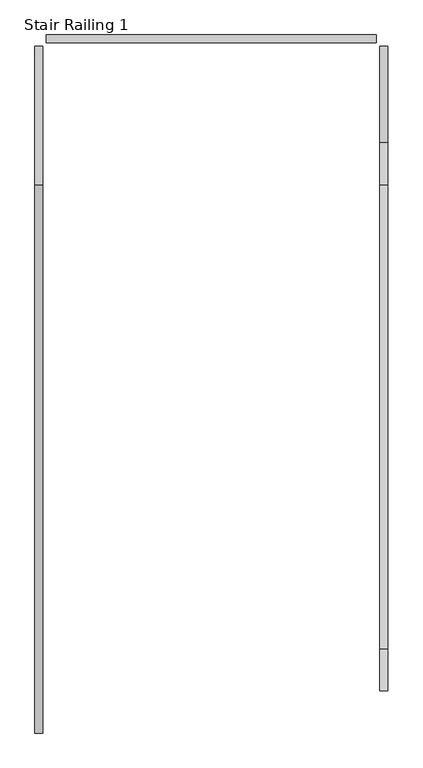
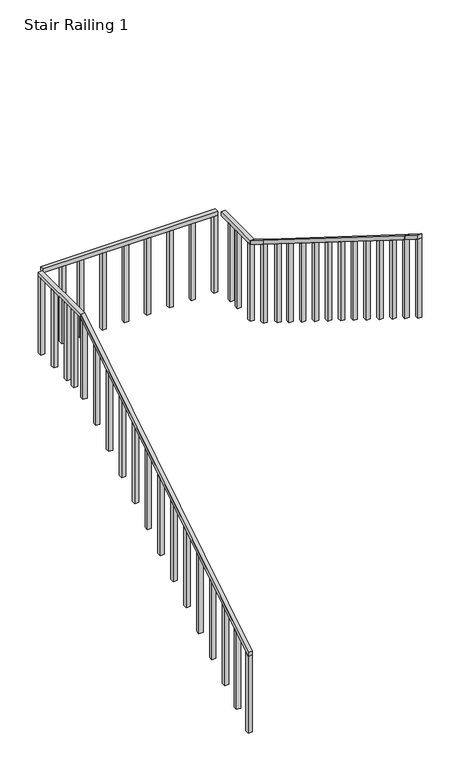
"""IFC4 building model written with IfcOpenShell, lengths in millimetres: railing geometry, Stair Railing 1."""

from ifc_helpers import new_model, si_unit, frame, origin, place, context, project, spatial, polyline, outline, extrude, source, transform, mapped, element, save


def stair_railing_1_c17154a6(model_context):
    return source(origin(), model_context, "Body", "SweptSolid", [
        extrude(outline(polyline([(42823.1018942, 9002.8888889), (42823.1018942, 8952.0888889), (39190.9018942, 6677.3777778), (39190.9018942, 6728.1777778), (42823.1018942, 9002.8888889)])), frame((-115070.173517, 0.0, 0.0), z_axis=(1.0, 0.0, 0.0), x_axis=(0.0, 1.0, 0.0)), (0.0, 0.0, 1.0), 50.8),
        extrude(outline(polyline([(39241.7018942, 6709.1919192), (39241.7018942, 5661.3777778), (39190.9018942, 5661.3777778), (39190.9018942, 6677.3777778), (39241.7018942, 6709.1919192)])), frame((-115070.173517, 0.0, 0.0), z_axis=(1.0, 0.0, 0.0), x_axis=(0.0, 1.0, 0.0)), (0.0, 0.0, 1.0), 50.8),
        extrude(outline(polyline([(39495.7018942, 6868.2626263), (39495.7018942, 5820.4484848), (39444.9018942, 5820.4484848), (39444.9018942, 6836.4484848), (39495.7018942, 6868.2626263)])), frame((-115070.173517, 0.0, 0.0), z_axis=(1.0, 0.0, 0.0), x_axis=(0.0, 1.0, 0.0)), (0.0, 0.0, 1.0), 50.8),
        extrude(outline(polyline([(39749.7018942, 7027.3333333), (39749.7018942, 5979.5191919), (39698.9018942, 5979.5191919), (39698.9018942, 6995.5191919), (39749.7018942, 7027.3333333)])), frame((-115070.173517, 0.0, 0.0), z_axis=(1.0, 0.0, 0.0), x_axis=(0.0, 1.0, 0.0)), (0.0, 0.0, 1.0), 50.8),
        extrude(outline(polyline([(40029.1018942, 7202.3111111), (40029.1018942, 6154.4969697), (39978.3018942, 6154.4969697), (39978.3018942, 7170.4969697), (40029.1018942, 7202.3111111)])), frame((-115070.173517, 0.0, 0.0), z_axis=(1.0, 0.0, 0.0), x_axis=(0.0, 1.0, 0.0)), (0.0, 0.0, 1.0), 50.8),
        extrude(outline(polyline([(40308.5018942, 7377.2888889), (40308.5018942, 6329.4747475), (40257.7018942, 6329.4747475), (40257.7018942, 7345.4747475), (40308.5018942, 7377.2888889)])), frame((-115070.173517, 0.0, 0.0), z_axis=(1.0, 0.0, 0.0), x_axis=(0.0, 1.0, 0.0)), (0.0, 0.0, 1.0), 50.8),
        extrude(outline(polyline([(40587.9018942, 7552.2666667), (40587.9018942, 6504.4525253), (40537.1018942, 6504.4525253), (40537.1018942, 7520.4525253), (40587.9018942, 7552.2666667)])), frame((-115070.173517, 0.0, 0.0), z_axis=(1.0, 0.0, 0.0), x_axis=(0.0, 1.0, 0.0)), (0.0, 0.0, 1.0), 50.8),
        extrude(outline(polyline([(40867.3018942, 7727.2444444), (40867.3018942, 6679.430303), (40816.5018942, 6679.430303), (40816.5018942, 7695.430303), (40867.3018942, 7727.2444444)])), frame((-115070.173517, 0.0, 0.0), z_axis=(1.0, 0.0, 0.0), x_axis=(0.0, 1.0, 0.0)), (0.0, 0.0, 1.0), 50.8),
        extrude(outline(polyline([(41146.7018942, 7902.2222222), (41146.7018942, 6854.4080808), (41095.9018942, 6854.4080808), (41095.9018942, 7870.4080808), (41146.7018942, 7902.2222222)])), frame((-115070.173517, 0.0, 0.0), z_axis=(1.0, 0.0, 0.0), x_axis=(0.0, 1.0, 0.0)), (0.0, 0.0, 1.0), 50.8),
        extrude(outline(polyline([(41426.1018942, 8077.2), (41426.1018942, 7029.3858586), (41375.3018942, 7029.3858586), (41375.3018942, 8045.3858586), (41426.1018942, 8077.2)])), frame((-115070.173517, 0.0, 0.0), z_axis=(1.0, 0.0, 0.0), x_axis=(0.0, 1.0, 0.0)), (0.0, 0.0, 1.0), 50.8),
        extrude(outline(polyline([(41705.5018942, 8252.1777778), (41705.5018942, 7204.3636364), (41654.7018942, 7204.3636364), (41654.7018942, 8220.3636364), (41705.5018942, 8252.1777778)])), frame((-115070.173517, 0.0, 0.0), z_axis=(1.0, 0.0, 0.0), x_axis=(0.0, 1.0, 0.0)), (0.0, 0.0, 1.0), 50.8),
        extrude(outline(polyline([(41984.9018942, 8427.1555556), (41984.9018942, 7379.3414141), (41934.1018942, 7379.3414141), (41934.1018942, 8395.3414141), (41984.9018942, 8427.1555556)])), frame((-115070.173517, 0.0, 0.0), z_axis=(1.0, 0.0, 0.0), x_axis=(0.0, 1.0, 0.0)), (0.0, 0.0, 1.0), 50.8),
        extrude(outline(polyline([(42264.3018942, 8602.1333333), (42264.3018942, 7554.3191919), (42213.5018942, 7554.3191919), (42213.5018942, 8570.3191919), (42264.3018942, 8602.1333333)])), frame((-115070.173517, 0.0, 0.0), z_axis=(1.0, 0.0, 0.0), x_axis=(0.0, 1.0, 0.0)), (0.0, 0.0, 1.0), 50.8),
        extrude(outline(polyline([(42543.7018942, 8777.1111111), (42543.7018942, 7729.2969697), (42492.9018942, 7729.2969697), (42492.9018942, 8745.2969697), (42543.7018942, 8777.1111111)])), frame((-115070.173517, 0.0, 0.0), z_axis=(1.0, 0.0, 0.0), x_axis=(0.0, 1.0, 0.0)), (0.0, 0.0, 1.0), 50.8),
        extrude(outline(polyline([(42823.1018942, 8952.0888889), (42823.1018942, 7904.2747475), (42772.3018942, 7904.2747475), (42772.3018942, 8920.2747475), (42823.1018942, 8952.0888889)])), frame((-115070.173517, 0.0, 0.0), z_axis=(1.0, 0.0, 0.0), x_axis=(0.0, 1.0, 0.0)), (0.0, 0.0, 1.0), 50.8),
        extrude(outline(polyline([(-115070.173517, 43737.5018942), (-115019.373517, 43737.5018942), (-115019.373517, 42823.1018942), (-115070.173517, 42823.1018942), (-115070.173517, 43737.5018942)])), frame((0.0, 0.0, 8952.0888889), z_axis=(0.0, 0.0, 1.0), x_axis=(1.0, 0.0, 0.0)), (0.0, 0.0, 1.0), 50.8),
        extrude(outline(polyline([(-115019.373517, 42975.5018942), (-115070.173517, 42975.5018942), (-115070.173517, 43026.3018942), (-115019.373517, 43026.3018942), (-115019.373517, 42975.5018942)])), frame((0.0, 0.0, 7936.0888889), z_axis=(0.0, 0.0, 1.0), x_axis=(1.0, 0.0, 0.0)), (0.0, 0.0, 1.0), 1016.0),
        extrude(outline(polyline([(-115019.373517, 43127.9018942), (-115070.173517, 43127.9018942), (-115070.173517, 43178.7018942), (-115019.373517, 43178.7018942), (-115019.373517, 43127.9018942)])), frame((0.0, 0.0, 7936.0888889), z_axis=(0.0, 0.0, 1.0), x_axis=(1.0, 0.0, 0.0)), (0.0, 0.0, 1.0), 1016.0),
        extrude(outline(polyline([(-115019.373517, 43407.3018942), (-115070.173517, 43407.3018942), (-115070.173517, 43458.1018942), (-115019.373517, 43458.1018942), (-115019.373517, 43407.3018942)])), frame((0.0, 0.0, 7936.0888889), z_axis=(0.0, 0.0, 1.0), x_axis=(1.0, 0.0, 0.0)), (0.0, 0.0, 1.0), 1016.0),
        extrude(outline(polyline([(-115019.373517, 43686.7018942), (-115070.173517, 43686.7018942), (-115070.173517, 43737.5018942), (-115019.373517, 43737.5018942), (-115019.373517, 43686.7018942)])), frame((0.0, 0.0, 7936.0888889), z_axis=(0.0, 0.0, 1.0), x_axis=(1.0, 0.0, 0.0)), (0.0, 0.0, 1.0), 1016.0),
        extrude(outline(polyline([(-112810.6492148, 43813.7018942), (-112810.6492148, 43762.9018942), (-114993.973517, 43762.9018942), (-114993.973517, 43813.7018942), (-112810.6492148, 43813.7018942)])), frame((0.0, 0.0, 8952.0888889), z_axis=(0.0, 0.0, 1.0), x_axis=(1.0, 0.0, 0.0)), (0.0, 0.0, 1.0), 50.8),
        extrude(outline(polyline([(-114765.9113659, 43762.9018942), (-114765.9113659, 43813.7018942), (-114715.1113659, 43813.7018942), (-114715.1113659, 43762.9018942), (-114765.9113659, 43762.9018942)])), frame((0.0, 0.0, 7936.0888889), z_axis=(0.0, 0.0, 1.0), x_axis=(1.0, 0.0, 0.0)), (0.0, 0.0, 1.0), 1016.0),
        extrude(outline(polyline([(-114537.8492148, 43762.9018942), (-114537.8492148, 43813.7018942), (-114487.0492148, 43813.7018942), (-114487.0492148, 43762.9018942), (-114537.8492148, 43762.9018942)])), frame((0.0, 0.0, 7936.0888889), z_axis=(0.0, 0.0, 1.0), x_axis=(1.0, 0.0, 0.0)), (0.0, 0.0, 1.0), 1016.0),
        extrude(outline(polyline([(-114258.4492148, 43762.9018942), (-114258.4492148, 43813.7018942), (-114207.6492148, 43813.7018942), (-114207.6492148, 43762.9018942), (-114258.4492148, 43762.9018942)])), frame((0.0, 0.0, 7936.0888889), z_axis=(0.0, 0.0, 1.0), x_axis=(1.0, 0.0, 0.0)), (0.0, 0.0, 1.0), 1016.0),
        extrude(outline(polyline([(-113979.0492148, 43762.9018942), (-113979.0492148, 43813.7018942), (-113928.2492148, 43813.7018942), (-113928.2492148, 43762.9018942), (-113979.0492148, 43762.9018942)])), frame((0.0, 0.0, 7936.0888889), z_axis=(0.0, 0.0, 1.0), x_axis=(1.0, 0.0, 0.0)), (0.0, 0.0, 1.0), 1016.0),
        extrude(outline(polyline([(-113699.6492148, 43762.9018942), (-113699.6492148, 43813.7018942), (-113648.8492148, 43813.7018942), (-113648.8492148, 43762.9018942), (-113699.6492148, 43762.9018942)])), frame((0.0, 0.0, 7936.0888889), z_axis=(0.0, 0.0, 1.0), x_axis=(1.0, 0.0, 0.0)), (0.0, 0.0, 1.0), 1016.0),
        extrude(outline(polyline([(-113420.2492148, 43762.9018942), (-113420.2492148, 43813.7018942), (-113369.4492148, 43813.7018942), (-113369.4492148, 43762.9018942), (-113420.2492148, 43762.9018942)])), frame((0.0, 0.0, 7936.0888889), z_axis=(0.0, 0.0, 1.0), x_axis=(1.0, 0.0, 0.0)), (0.0, 0.0, 1.0), 1016.0),
        extrude(outline(polyline([(-113140.8492148, 43762.9018942), (-113140.8492148, 43813.7018942), (-113090.0492148, 43813.7018942), (-113090.0492148, 43762.9018942), (-113140.8492148, 43762.9018942)])), frame((0.0, 0.0, 7936.0888889), z_axis=(0.0, 0.0, 1.0), x_axis=(1.0, 0.0, 0.0)), (0.0, 0.0, 1.0), 1016.0),
        extrude(outline(polyline([(-112861.4492148, 43762.9018942), (-112861.4492148, 43813.7018942), (-112810.6492148, 43813.7018942), (-112810.6492148, 43762.9018942), (-112861.4492148, 43762.9018942)])), frame((0.0, 0.0, 7936.0888889), z_axis=(0.0, 0.0, 1.0), x_axis=(1.0, 0.0, 0.0)), (0.0, 0.0, 1.0), 1016.0),
        extrude(outline(polyline([(-112734.4492148, 43102.5018942), (-112785.2492148, 43102.5018942), (-112785.2492148, 43737.5018942), (-112734.4492148, 43737.5018942), (-112734.4492148, 43102.5018942)])), frame((0.0, 0.0, 8952.0888889), z_axis=(0.0, 0.0, 1.0), x_axis=(1.0, 0.0, 0.0)), (0.0, 0.0, 1.0), 50.8),
        extrude(outline(polyline([(-112785.2492148, 43585.1018942), (-112734.4492148, 43585.1018942), (-112734.4492148, 43534.3018942), (-112785.2492148, 43534.3018942), (-112785.2492148, 43585.1018942)])), frame((0.0, 0.0, 7936.0888889), z_axis=(0.0, 0.0, 1.0), x_axis=(1.0, 0.0, 0.0)), (0.0, 0.0, 1.0), 1016.0),
        extrude(outline(polyline([(-112785.2492148, 43432.7018942), (-112734.4492148, 43432.7018942), (-112734.4492148, 43381.9018942), (-112785.2492148, 43381.9018942), (-112785.2492148, 43432.7018942)])), frame((0.0, 0.0, 7936.0888889), z_axis=(0.0, 0.0, 1.0), x_axis=(1.0, 0.0, 0.0)), (0.0, 0.0, 1.0), 1016.0),
        extrude(outline(polyline([(-112785.2492148, 43153.3018942), (-112734.4492148, 43153.3018942), (-112734.4492148, 43102.5018942), (-112785.2492148, 43102.5018942), (-112785.2492148, 43153.3018942)])), frame((0.0, 0.0, 7936.0888889), z_axis=(0.0, 0.0, 1.0), x_axis=(1.0, 0.0, 0.0)), (0.0, 0.0, 1.0), 1016.0),
        extrude(outline(polyline([(42823.1018942, 9127.0666667), (42823.1018942, 9177.8666667), (43102.5018942, 9002.8888889), (43102.5018942, 8952.0888889), (42823.1018942, 9127.0666667)])), frame((-112785.2492148, 0.0, 0.0), z_axis=(1.0, 0.0, 0.0), x_axis=(0.0, 1.0, 0.0)), (0.0, 0.0, 1.0), 50.8),
        extrude(outline(polyline([(42873.9018942, 9095.2525253), (42873.9018942, 8079.2525253), (42823.1018942, 8079.2525253), (42823.1018942, 9127.0666667), (42873.9018942, 9095.2525253)])), frame((-112785.2492148, 0.0, 0.0), z_axis=(1.0, 0.0, 0.0), x_axis=(0.0, 1.0, 0.0)), (0.0, 0.0, 1.0), 50.8),
        extrude(outline(polyline([(39749.7018942, 11051.8222222), (39749.7018942, 11102.6222222), (42823.1018942, 9177.8666667), (42823.1018942, 9127.0666667), (39749.7018942, 11051.8222222)])), frame((-112785.2492148, 0.0, 0.0), z_axis=(1.0, 0.0, 0.0), x_axis=(0.0, 1.0, 0.0)), (0.0, 0.0, 1.0), 50.8),
        extrude(outline(polyline([(42569.1018942, 9286.1373737), (42569.1018942, 8270.1373737), (42518.3018942, 8270.1373737), (42518.3018942, 9317.9515152), (42569.1018942, 9286.1373737)])), frame((-112785.2492148, 0.0, 0.0), z_axis=(1.0, 0.0, 0.0), x_axis=(0.0, 1.0, 0.0)), (0.0, 0.0, 1.0), 50.8),
        extrude(outline(polyline([(42315.1018942, 9445.2080808), (42315.1018942, 8429.2080808), (42264.3018942, 8429.2080808), (42264.3018942, 9477.0222222), (42315.1018942, 9445.2080808)])), frame((-112785.2492148, 0.0, 0.0), z_axis=(1.0, 0.0, 0.0), x_axis=(0.0, 1.0, 0.0)), (0.0, 0.0, 1.0), 50.8),
        extrude(outline(polyline([(42035.7018942, 9620.1858586), (42035.7018942, 8604.1858586), (41984.9018942, 8604.1858586), (41984.9018942, 9652.0), (42035.7018942, 9620.1858586)])), frame((-112785.2492148, 0.0, 0.0), z_axis=(1.0, 0.0, 0.0), x_axis=(0.0, 1.0, 0.0)), (0.0, 0.0, 1.0), 50.8),
        extrude(outline(polyline([(41756.3018942, 9795.1636364), (41756.3018942, 8779.1636364), (41705.5018942, 8779.1636364), (41705.5018942, 9826.9777778), (41756.3018942, 9795.1636364)])), frame((-112785.2492148, 0.0, 0.0), z_axis=(1.0, 0.0, 0.0), x_axis=(0.0, 1.0, 0.0)), (0.0, 0.0, 1.0), 50.8),
        extrude(outline(polyline([(41476.9018942, 9970.1414141), (41476.9018942, 8954.1414141), (41426.1018942, 8954.1414141), (41426.1018942, 10001.9555556), (41476.9018942, 9970.1414141)])), frame((-112785.2492148, 0.0, 0.0), z_axis=(1.0, 0.0, 0.0), x_axis=(0.0, 1.0, 0.0)), (0.0, 0.0, 1.0), 50.8),
        extrude(outline(polyline([(41197.5018942, 10145.1191919), (41197.5018942, 9129.1191919), (41146.7018942, 9129.1191919), (41146.7018942, 10176.9333333), (41197.5018942, 10145.1191919)])), frame((-112785.2492148, 0.0, 0.0), z_axis=(1.0, 0.0, 0.0), x_axis=(0.0, 1.0, 0.0)), (0.0, 0.0, 1.0), 50.8),
        extrude(outline(polyline([(40918.1018942, 10320.0969697), (40918.1018942, 9304.0969697), (40867.3018942, 9304.0969697), (40867.3018942, 10351.9111111), (40918.1018942, 10320.0969697)])), frame((-112785.2492148, 0.0, 0.0), z_axis=(1.0, 0.0, 0.0), x_axis=(0.0, 1.0, 0.0)), (0.0, 0.0, 1.0), 50.8),
        extrude(outline(polyline([(40638.7018942, 10495.0747475), (40638.7018942, 9479.0747475), (40587.9018942, 9479.0747475), (40587.9018942, 10526.8888889), (40638.7018942, 10495.0747475)])), frame((-112785.2492148, 0.0, 0.0), z_axis=(1.0, 0.0, 0.0), x_axis=(0.0, 1.0, 0.0)), (0.0, 0.0, 1.0), 50.8),
        extrude(outline(polyline([(40359.3018942, 10670.0525253), (40359.3018942, 9654.0525253), (40308.5018942, 9654.0525253), (40308.5018942, 10701.8666667), (40359.3018942, 10670.0525253)])), frame((-112785.2492148, 0.0, 0.0), z_axis=(1.0, 0.0, 0.0), x_axis=(0.0, 1.0, 0.0)), (0.0, 0.0, 1.0), 50.8),
        extrude(outline(polyline([(40079.9018942, 10845.030303), (40079.9018942, 9829.030303), (40029.1018942, 9829.030303), (40029.1018942, 10876.8444444), (40079.9018942, 10845.030303)])), frame((-112785.2492148, 0.0, 0.0), z_axis=(1.0, 0.0, 0.0), x_axis=(0.0, 1.0, 0.0)), (0.0, 0.0, 1.0), 50.8),
        extrude(outline(polyline([(39800.5018942, 11020.0080808), (39800.5018942, 10004.0080808), (39749.7018942, 10004.0080808), (39749.7018942, 11051.8222222), (39800.5018942, 11020.0080808)])), frame((-112785.2492148, 0.0, 0.0), z_axis=(1.0, 0.0, 0.0), x_axis=(0.0, 1.0, 0.0)), (0.0, 0.0, 1.0), 50.8),
        extrude(outline(polyline([(39470.3018942, 11226.8), (39470.3018942, 11277.6), (39749.7018942, 11102.6222222), (39749.7018942, 11051.8222222), (39470.3018942, 11226.8)])), frame((-112785.2492148, 0.0, 0.0), z_axis=(1.0, 0.0, 0.0), x_axis=(0.0, 1.0, 0.0)), (0.0, 0.0, 1.0), 50.8),
        extrude(outline(polyline([(39521.1018942, 11194.9858586), (39521.1018942, 10178.9858586), (39470.3018942, 10178.9858586), (39470.3018942, 11226.8), (39521.1018942, 11194.9858586)])), frame((-112785.2492148, 0.0, 0.0), z_axis=(1.0, 0.0, 0.0), x_axis=(0.0, 1.0, 0.0)), (0.0, 0.0, 1.0), 50.8),
    ])


if __name__ == "__main__":
    model = new_model("IFC4")
    model_context = context("Model", 3, world=origin())
    ifc_project = project(units=[si_unit("LENGTHUNIT", "METRE", prefix="MILLI")], contexts=[model_context])
    site = spatial("IfcSite", under=ifc_project)
    building = spatial("IfcBuilding", under=site)
    placement = place(None, origin())
    stair_railing_1_shape = stair_railing_1_c17154a6(model_context)
    element("IfcRailing", 1, ObjectType="Stair Railing 1", at=placement, inside=building, context=model_context, shape_type="MappedRepresentation", body=[
        mapped(stair_railing_1_shape, transform((0.0, 0.0, 0.0), x_axis=(1.0, 0.0, 0.0), y_axis=(0.0, 1.0, 0.0), z_axis=(0.0, 0.0, 1.0))),
    ])
    save(model, "model.ifc")
